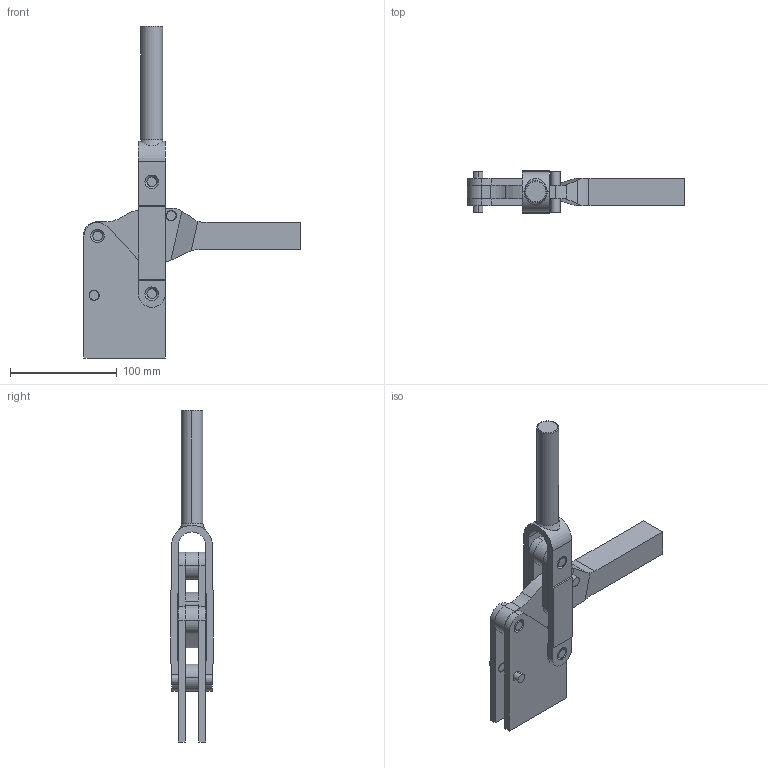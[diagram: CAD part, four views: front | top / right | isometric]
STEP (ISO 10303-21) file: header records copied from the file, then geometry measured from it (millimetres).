
FILE_DESCRIPTION( ( '' ), '1' );
FILE_NAME( 'C:\Documents and Settings\Richard Grenzke\My Documents\Wolverine Company Data\WOLVERINE CD 5_17_05\SOLIDS STEP\hold_down\cq915s.stp', ' ', ( '' ), ( '' ), 'ACIS Interop R16', 'Kubotek KeyCreator V5.5.1 (0454)', ' ' );
FILE_SCHEMA( ( 'CONFIG_CONTROL_DESIGN' ) );
Length unit declared in the file: inch
Products named in the file (17): 1; 2; 3; 4; 5; 6; 7; 8; 9; 10; 11; 12; 13; 14; 15; 16; 17
Bounding box: 203.99 x 39.62 x 311.07 mm (x, y, z)
Volume: 341229.2 mm3; surface area: 105657.6 mm2
Topology: 15 solids, 15 shells, 187 faces, 497 edges, 340 vertices
Faces by surface type: cylinder 84, plane 79, cone 22, torus 2
Entity records: 6859 total; most frequent: DIRECTION 1147, CARTESIAN_POINT 1123, ORIENTED_EDGE 994, EDGE_CURVE 497, AXIS2_PLACEMENT_3D 452, VERTEX_POINT 340, LINE 243, VECTOR 243
